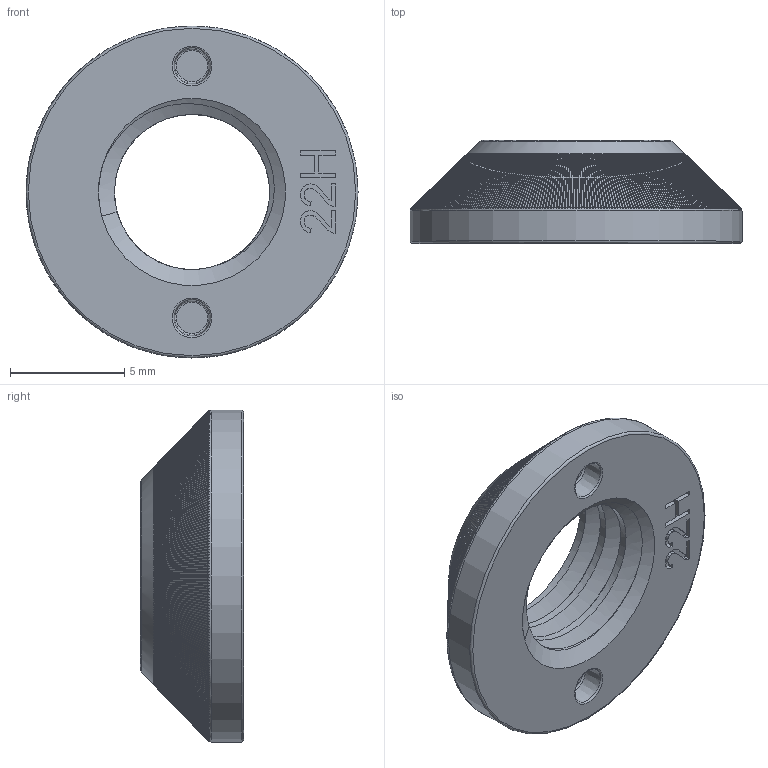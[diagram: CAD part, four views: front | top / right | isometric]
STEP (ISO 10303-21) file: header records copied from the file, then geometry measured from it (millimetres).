
FILE_DESCRIPTION(/* description */ (''),/* implementation_level */ '2;1');
FILE_NAME(/* name */ 'HEWI_CONU_M8_PreFinal_1.step',/* time_stamp */ '2024-01-24T06:12:48+01:00',/* author */ (''),/* organization */ (''),/* preprocessor_version */ 'ST-DEVELOPER v20',/* originating_system */ 'Autodesk Translation Framework v12.14.0.127',/* authorisation */ '');
FILE_SCHEMA (('AUTOMOTIVE_DESIGN { 1 0 10303 214 3 1 1 }'));
Length unit declared in the file: millimetre
Products named in the file (1): HEWI_CONU_M8
Bounding box: 14.5 x 4.5 x 14.5 mm (x, y, z)
Volume: 361.3 mm3; surface area: 555.9 mm2
Topology: 1 solids, 1 shells, 1934 faces, 6514 edges, 3847 vertices
Faces by surface type: bspline 1516, cylinder 380, plane 26, torus 7, cone 5
Full cylindrical faces by diameter (mm): 6.779 x1, 8.17 x1, 14.5 x1
Entity records: 142362 total; most frequent: CARTESIAN_POINT 102750, ORIENTED_EDGE 11550, EDGE_CURVE 5775, DIRECTION 4695, VERTEX_POINT 3847, B_SPLINE_CURVE_WITH_KNOTS 3055, AXIS2_PLACEMENT_3D 2294, EDGE_LOOP 1940
